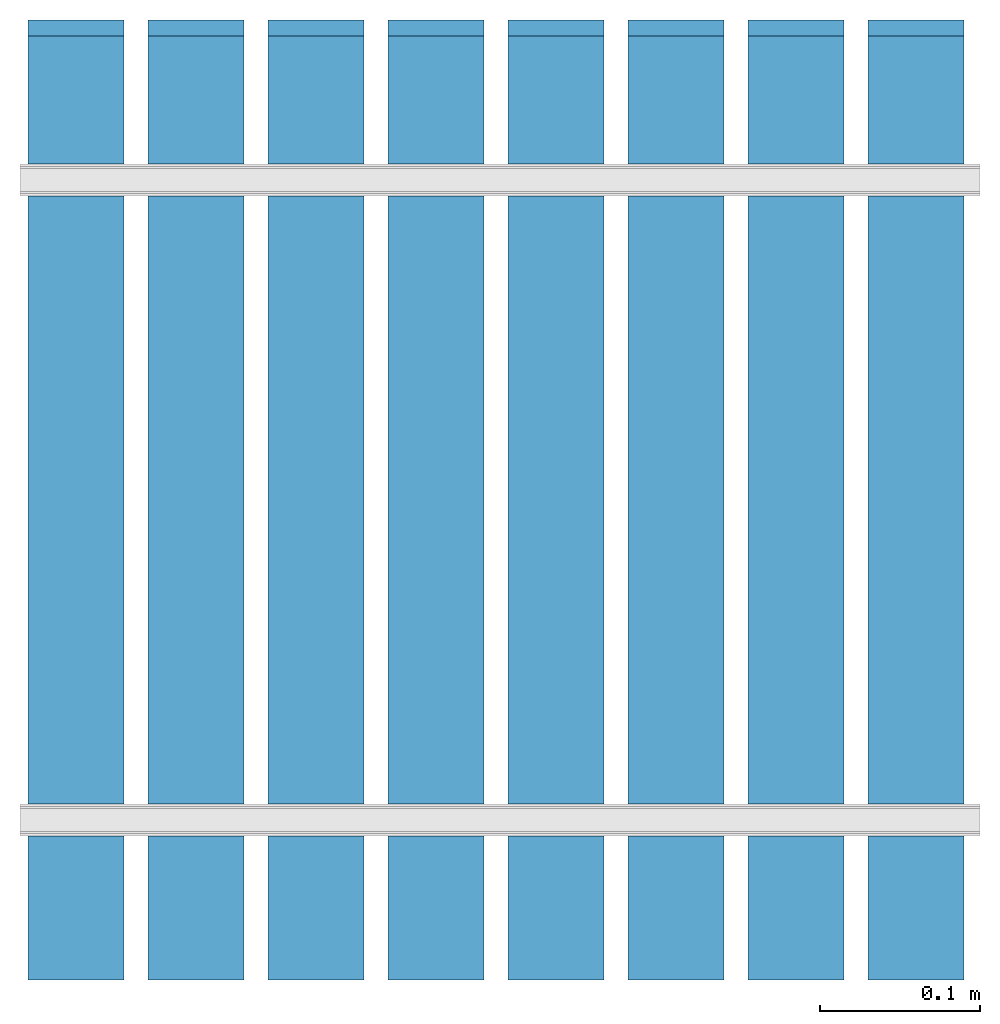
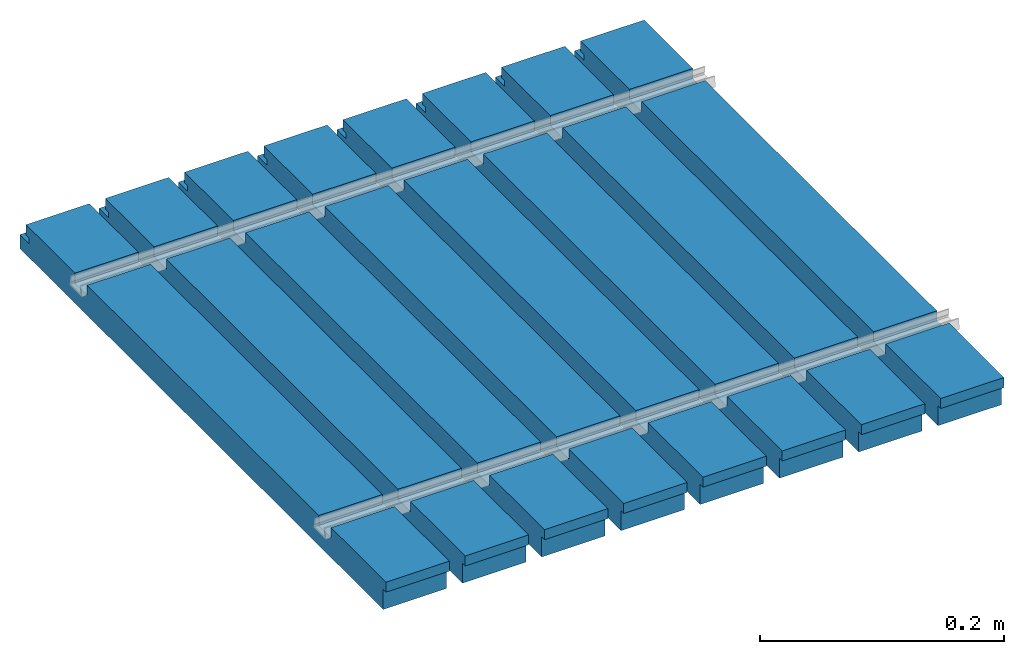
# One storey, part 2 of 2: 8 walls.
"""IFC2X3 building model written with IfcOpenShell, lengths in millimetres."""

from ifc_helpers import new_model, entity, si_unit, converted_unit, money_unit, direction, frame, origin_with_axes, place, context, subcontext, project, spatial, polyline, outline, extrude, boolean, faceted_brep, material, layer, layer_set, layer_usage, type_object, element, save


model = new_model("IFC2X3")

# Units and contexts
model_context = context("Model", 3, precision=1e-05, world=origin_with_axes(), true_north=direction((0.0, 1.0)))
body_context = subcontext(model_context, "Body", "Model", "MODEL_VIEW")
ifc_project = project(units=[si_unit("LENGTHUNIT", "METRE", prefix="MILLI"), si_unit("AREAUNIT", "SQUARE_METRE"), si_unit("VOLUMEUNIT", "CUBIC_METRE"), converted_unit("PLANEANGLEUNIT", "DEGREE", entity("IfcPlaneAngleMeasure", 0.0174532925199), si_unit("PLANEANGLEUNIT", "RADIAN"), dimensions=[0, 0, 0, 0, 0, 0, 0]), si_unit("SOLIDANGLEUNIT", "STERADIAN"), money_unit("AUD"), si_unit("TIMEUNIT", "SECOND"), si_unit("MASSUNIT", "GRAM"), si_unit("THERMODYNAMICTEMPERATUREUNIT", "DEGREE_CELSIUS"), si_unit("LUMINOUSINTENSITYUNIT", "LUMEN")], contexts=[model_context])

# Site, building, storey
site_placement = place(None, origin_with_axes())
site = spatial("IfcSite", under=ifc_project, at=site_placement, Name="Site", CompositionType="ELEMENT")
building_placement = place(site_placement, origin_with_axes())
building = spatial("IfcBuilding", under=site, at=building_placement, Name="Building", CompositionType="ELEMENT")
storey_placement = place(building_placement, origin_with_axes())
storey = spatial("IfcBuildingStorey", under=building, at=storey_placement, Name="GROUND", CompositionType="ELEMENT", Elevation=0.0)

# Walls
ifc_material = material(Name="Timber")
ifc_layer = layer(ifc_material, 60.0, ventilated="UNKNOWN")
ifc_layer_set = layer_set([ifc_layer], Name="Timber 60")
ifc_layer_usage_1 = layer_usage(ifc_layer_set, "AXIS2", "POSITIVE", 0.0)
wall_type = type_object("IfcWallType", Name="Timber 60", PredefinedType="NOTDEFINED")
wall_1_placement = place(storey_placement, frame((292.5, 0.0, -30.0), z_axis=(0.0, 0.0, 1.0), x_axis=(0.0, 1.0, 0.0)))
element("IfcWallStandardCase", 1, at=wall_1_placement, inside=storey, type_object=wall_type, material=ifc_layer_usage_1, Name="WALL-01", context=body_context, shape_type="CSG", body=[
    boolean("DIFFERENCE", boolean("DIFFERENCE", boolean("DIFFERENCE", boolean("DIFFERENCE", extrude(outline(polyline([(0.0, 0.0), (600.0, 0.0), (600.0, 60.0), (0.0, 60.0), (0.0, 0.0)])), origin_with_axes(), (0.0, 0.0, 1.0), 30.0), faceted_brep([(4.5, 0.0, 20.0), (0.0, 0.0, 20.0), (0.0, 0.0, 0.0), (4.5, 0.0, 0.0), (4.5, 60.0, 20.0), (0.0, 60.0, 20.0), (0.0, 60.0, 0.0), (4.5, 60.0, 0.0)], [[[0, 1, 2, 3]], [[1, 0, 4, 5]], [[1, 5, 6, 2]], [[7, 3, 2, 6]], [[0, 3, 7, 4]], [[4, 7, 6, 5]]])), faceted_brep([(90.0, 0.0, 20.0), (110.0, 0.0, 20.0), (110.0, 0.0, 30.0), (90.0, 0.0, 30.0), (90.0, 60.0, 20.0), (110.0, 60.0, 20.0), (110.0, 60.0, 30.0), (90.0, 60.0, 30.0)], [[[0, 1, 2, 3]], [[1, 0, 4, 5]], [[6, 2, 1, 5]], [[7, 3, 2, 6]], [[0, 3, 7, 4]], [[4, 7, 6, 5]]])), faceted_brep([(490.0, 0.0, 20.0), (510.0, 0.0, 20.0), (510.0, 0.0, 30.0), (490.0, 0.0, 30.0), (490.0, 60.0, 20.0), (510.0, 60.0, 20.0), (510.0, 60.0, 30.0), (490.0, 60.0, 30.0)], [[[0, 1, 2, 3]], [[1, 0, 4, 5]], [[6, 2, 1, 5]], [[7, 3, 2, 6]], [[0, 3, 7, 4]], [[4, 7, 6, 5]]])), faceted_brep([(585.0, 0.0, 19.5), (585.0, 0.0, 14.0), (600.0, 0.0, 14.0), (600.0, 0.0, 30.0), (590.0, 0.0, 30.0), (590.0, 0.0, 19.5), (585.0, 60.0, 19.5), (585.0, 60.0, 14.0), (600.0, 60.0, 14.0), (600.0, 60.0, 30.0), (590.0, 60.0, 30.0), (590.0, 60.0, 19.5)], [[[0, 1, 2, 3, 4, 5]], [[1, 0, 6, 7]], [[8, 2, 1, 7]], [[2, 8, 9, 3]], [[10, 4, 3, 9]], [[5, 4, 10, 11]], [[0, 5, 11, 6]], [[11, 10, 9, 8, 7, 6]]])),
])
ifc_layer_usage_2 = layer_usage(ifc_layer_set, "AXIS2", "POSITIVE", 0.0)
wall_2_placement = place(storey_placement, frame((367.5, 0.0, -30.0), z_axis=(0.0, 0.0, 1.0), x_axis=(0.0, 1.0, 0.0)))
element("IfcWallStandardCase", 2, at=wall_2_placement, inside=storey, type_object=wall_type, material=ifc_layer_usage_2, Name="WALL-01", context=body_context, shape_type="CSG", body=[
    boolean("DIFFERENCE", boolean("DIFFERENCE", boolean("DIFFERENCE", boolean("DIFFERENCE", extrude(outline(polyline([(0.0, 0.0), (600.0, 0.0), (600.0, 60.0), (0.0, 60.0), (0.0, 0.0)])), origin_with_axes(), (0.0, 0.0, 1.0), 30.0), faceted_brep([(4.5, 0.0, 20.0), (0.0, 0.0, 20.0), (0.0, 0.0, 0.0), (4.5, 0.0, 0.0), (4.5, 60.0, 20.0), (0.0, 60.0, 20.0), (0.0, 60.0, 0.0), (4.5, 60.0, 0.0)], [[[0, 1, 2, 3]], [[1, 0, 4, 5]], [[1, 5, 6, 2]], [[7, 3, 2, 6]], [[0, 3, 7, 4]], [[4, 7, 6, 5]]])), faceted_brep([(90.0, 0.0, 20.0), (110.0, 0.0, 20.0), (110.0, 0.0, 30.0), (90.0, 0.0, 30.0), (90.0, 60.0, 20.0), (110.0, 60.0, 20.0), (110.0, 60.0, 30.0), (90.0, 60.0, 30.0)], [[[0, 1, 2, 3]], [[1, 0, 4, 5]], [[6, 2, 1, 5]], [[7, 3, 2, 6]], [[0, 3, 7, 4]], [[4, 7, 6, 5]]])), faceted_brep([(490.0, 0.0, 20.0), (510.0, 0.0, 20.0), (510.0, 0.0, 30.0), (490.0, 0.0, 30.0), (490.0, 60.0, 20.0), (510.0, 60.0, 20.0), (510.0, 60.0, 30.0), (490.0, 60.0, 30.0)], [[[0, 1, 2, 3]], [[1, 0, 4, 5]], [[6, 2, 1, 5]], [[7, 3, 2, 6]], [[0, 3, 7, 4]], [[4, 7, 6, 5]]])), faceted_brep([(585.0, 0.0, 19.5), (585.0, 0.0, 14.0), (600.0, 0.0, 14.0), (600.0, 0.0, 30.0), (590.0, 0.0, 30.0), (590.0, 0.0, 19.5), (585.0, 60.0, 19.5), (585.0, 60.0, 14.0), (600.0, 60.0, 14.0), (600.0, 60.0, 30.0), (590.0, 60.0, 30.0), (590.0, 60.0, 19.5)], [[[0, 1, 2, 3, 4, 5]], [[1, 0, 6, 7]], [[8, 2, 1, 7]], [[2, 8, 9, 3]], [[10, 4, 3, 9]], [[5, 4, 10, 11]], [[0, 5, 11, 6]], [[11, 10, 9, 8, 7, 6]]])),
])
ifc_layer_usage_3 = layer_usage(ifc_layer_set, "AXIS2", "POSITIVE", 0.0)
wall_3_placement = place(storey_placement, frame((442.5, 0.0, -30.0), z_axis=(0.0, 0.0, 1.0), x_axis=(0.0, 1.0, 0.0)))
element("IfcWallStandardCase", 3, at=wall_3_placement, inside=storey, type_object=wall_type, material=ifc_layer_usage_3, Name="WALL-01", context=body_context, shape_type="CSG", body=[
    boolean("DIFFERENCE", boolean("DIFFERENCE", boolean("DIFFERENCE", boolean("DIFFERENCE", extrude(outline(polyline([(0.0, 0.0), (600.0, 0.0), (600.0, 60.0), (0.0, 60.0), (0.0, 0.0)])), origin_with_axes(), (0.0, 0.0, 1.0), 30.0), faceted_brep([(4.5, 0.0, 20.0), (0.0, 0.0, 20.0), (0.0, 0.0, 0.0), (4.5, 0.0, 0.0), (4.5, 60.0, 20.0), (0.0, 60.0, 20.0), (0.0, 60.0, 0.0), (4.5, 60.0, 0.0)], [[[0, 1, 2, 3]], [[1, 0, 4, 5]], [[1, 5, 6, 2]], [[7, 3, 2, 6]], [[0, 3, 7, 4]], [[4, 7, 6, 5]]])), faceted_brep([(90.0, 0.0, 20.0), (110.0, 0.0, 20.0), (110.0, 0.0, 30.0), (90.0, 0.0, 30.0), (90.0, 60.0, 20.0), (110.0, 60.0, 20.0), (110.0, 60.0, 30.0), (90.0, 60.0, 30.0)], [[[0, 1, 2, 3]], [[1, 0, 4, 5]], [[6, 2, 1, 5]], [[7, 3, 2, 6]], [[0, 3, 7, 4]], [[4, 7, 6, 5]]])), faceted_brep([(490.0, 0.0, 20.0), (510.0, 0.0, 20.0), (510.0, 0.0, 30.0), (490.0, 0.0, 30.0), (490.0, 60.0, 20.0), (510.0, 60.0, 20.0), (510.0, 60.0, 30.0), (490.0, 60.0, 30.0)], [[[0, 1, 2, 3]], [[1, 0, 4, 5]], [[6, 2, 1, 5]], [[7, 3, 2, 6]], [[0, 3, 7, 4]], [[4, 7, 6, 5]]])), faceted_brep([(585.0, 0.0, 19.5), (585.0, 0.0, 14.0), (600.0, 0.0, 14.0), (600.0, 0.0, 30.0), (590.0, 0.0, 30.0), (590.0, 0.0, 19.5), (585.0, 60.0, 19.5), (585.0, 60.0, 14.0), (600.0, 60.0, 14.0), (600.0, 60.0, 30.0), (590.0, 60.0, 30.0), (590.0, 60.0, 19.5)], [[[0, 1, 2, 3, 4, 5]], [[1, 0, 6, 7]], [[8, 2, 1, 7]], [[2, 8, 9, 3]], [[10, 4, 3, 9]], [[5, 4, 10, 11]], [[0, 5, 11, 6]], [[11, 10, 9, 8, 7, 6]]])),
])
ifc_layer_usage_4 = layer_usage(ifc_layer_set, "AXIS2", "POSITIVE", 0.0)
wall_4_placement = place(storey_placement, frame((217.5, 0.0, -30.0), z_axis=(0.0, 0.0, 1.0), x_axis=(0.0, 1.0, 0.0)))
element("IfcWallStandardCase", 4, at=wall_4_placement, inside=storey, type_object=wall_type, material=ifc_layer_usage_4, Name="WALL-01", context=body_context, shape_type="CSG", body=[
    boolean("DIFFERENCE", boolean("DIFFERENCE", boolean("DIFFERENCE", boolean("DIFFERENCE", extrude(outline(polyline([(0.0, 0.0), (600.0, 0.0), (600.0, 60.0), (0.0, 60.0), (0.0, 0.0)])), origin_with_axes(), (0.0, 0.0, 1.0), 30.0), faceted_brep([(4.5, 0.0, 20.0), (0.0, 0.0, 20.0), (0.0, 0.0, 0.0), (4.5, 0.0, 0.0), (4.5, 60.0, 20.0), (0.0, 60.0, 20.0), (0.0, 60.0, 0.0), (4.5, 60.0, 0.0)], [[[0, 1, 2, 3]], [[1, 0, 4, 5]], [[1, 5, 6, 2]], [[7, 3, 2, 6]], [[0, 3, 7, 4]], [[4, 7, 6, 5]]])), faceted_brep([(90.0, 0.0, 20.0), (110.0, 0.0, 20.0), (110.0, 0.0, 30.0), (90.0, 0.0, 30.0), (90.0, 60.0, 20.0), (110.0, 60.0, 20.0), (110.0, 60.0, 30.0), (90.0, 60.0, 30.0)], [[[0, 1, 2, 3]], [[1, 0, 4, 5]], [[6, 2, 1, 5]], [[7, 3, 2, 6]], [[0, 3, 7, 4]], [[4, 7, 6, 5]]])), faceted_brep([(490.0, 0.0, 20.0), (510.0, 0.0, 20.0), (510.0, 0.0, 30.0), (490.0, 0.0, 30.0), (490.0, 60.0, 20.0), (510.0, 60.0, 20.0), (510.0, 60.0, 30.0), (490.0, 60.0, 30.0)], [[[0, 1, 2, 3]], [[1, 0, 4, 5]], [[6, 2, 1, 5]], [[7, 3, 2, 6]], [[0, 3, 7, 4]], [[4, 7, 6, 5]]])), faceted_brep([(585.0, 0.0, 19.5), (585.0, 0.0, 14.0), (600.0, 0.0, 14.0), (600.0, 0.0, 30.0), (590.0, 0.0, 30.0), (590.0, 0.0, 19.5), (585.0, 60.0, 19.5), (585.0, 60.0, 14.0), (600.0, 60.0, 14.0), (600.0, 60.0, 30.0), (590.0, 60.0, 30.0), (590.0, 60.0, 19.5)], [[[0, 1, 2, 3, 4, 5]], [[1, 0, 6, 7]], [[8, 2, 1, 7]], [[2, 8, 9, 3]], [[10, 4, 3, 9]], [[5, 4, 10, 11]], [[0, 5, 11, 6]], [[11, 10, 9, 8, 7, 6]]])),
])
ifc_layer_usage_5 = layer_usage(ifc_layer_set, "AXIS2", "POSITIVE", 0.0)
wall_5_placement = place(storey_placement, frame((142.5, 0.0, -30.0), z_axis=(0.0, 0.0, 1.0), x_axis=(0.0, 1.0, 0.0)))
element("IfcWallStandardCase", 5, at=wall_5_placement, inside=storey, type_object=wall_type, material=ifc_layer_usage_5, Name="WALL-01", context=body_context, shape_type="CSG", body=[
    boolean("DIFFERENCE", boolean("DIFFERENCE", boolean("DIFFERENCE", boolean("DIFFERENCE", extrude(outline(polyline([(0.0, 0.0), (600.0, 0.0), (600.0, 60.0), (0.0, 60.0), (0.0, 0.0)])), origin_with_axes(), (0.0, 0.0, 1.0), 30.0), faceted_brep([(4.5, 0.0, 20.0), (0.0, 0.0, 20.0), (0.0, 0.0, 0.0), (4.5, 0.0, 0.0), (4.5, 60.0, 20.0), (0.0, 60.0, 20.0), (0.0, 60.0, 0.0), (4.5, 60.0, 0.0)], [[[0, 1, 2, 3]], [[1, 0, 4, 5]], [[1, 5, 6, 2]], [[7, 3, 2, 6]], [[0, 3, 7, 4]], [[4, 7, 6, 5]]])), faceted_brep([(90.0, 0.0, 20.0), (110.0, 0.0, 20.0), (110.0, 0.0, 30.0), (90.0, 0.0, 30.0), (90.0, 60.0, 20.0), (110.0, 60.0, 20.0), (110.0, 60.0, 30.0), (90.0, 60.0, 30.0)], [[[0, 1, 2, 3]], [[1, 0, 4, 5]], [[6, 2, 1, 5]], [[7, 3, 2, 6]], [[0, 3, 7, 4]], [[4, 7, 6, 5]]])), faceted_brep([(490.0, 0.0, 20.0), (510.0, 0.0, 20.0), (510.0, 0.0, 30.0), (490.0, 0.0, 30.0), (490.0, 60.0, 20.0), (510.0, 60.0, 20.0), (510.0, 60.0, 30.0), (490.0, 60.0, 30.0)], [[[0, 1, 2, 3]], [[1, 0, 4, 5]], [[6, 2, 1, 5]], [[7, 3, 2, 6]], [[0, 3, 7, 4]], [[4, 7, 6, 5]]])), faceted_brep([(585.0, 0.0, 19.5), (585.0, 0.0, 14.0), (600.0, 0.0, 14.0), (600.0, 0.0, 30.0), (590.0, 0.0, 30.0), (590.0, 0.0, 19.5), (585.0, 60.0, 19.5), (585.0, 60.0, 14.0), (600.0, 60.0, 14.0), (600.0, 60.0, 30.0), (590.0, 60.0, 30.0), (590.0, 60.0, 19.5)], [[[0, 1, 2, 3, 4, 5]], [[1, 0, 6, 7]], [[8, 2, 1, 7]], [[2, 8, 9, 3]], [[10, 4, 3, 9]], [[5, 4, 10, 11]], [[0, 5, 11, 6]], [[11, 10, 9, 8, 7, 6]]])),
])
ifc_layer_usage_6 = layer_usage(ifc_layer_set, "AXIS2", "POSITIVE", 0.0)
wall_6_placement = place(storey_placement, frame((67.5, 0.0, -30.0), z_axis=(0.0, 0.0, 1.0), x_axis=(0.0, 1.0, 0.0)))
element("IfcWallStandardCase", 6, at=wall_6_placement, inside=storey, type_object=wall_type, material=ifc_layer_usage_6, Name="WALL-01", context=body_context, shape_type="CSG", body=[
    boolean("DIFFERENCE", boolean("DIFFERENCE", boolean("DIFFERENCE", boolean("DIFFERENCE", extrude(outline(polyline([(0.0, 0.0), (600.0, 0.0), (600.0, 60.0), (0.0, 60.0), (0.0, 0.0)])), origin_with_axes(), (0.0, 0.0, 1.0), 30.0), faceted_brep([(4.5, 0.0, 20.0), (0.0, 0.0, 20.0), (0.0, 0.0, 0.0), (4.5, 0.0, 0.0), (4.5, 60.0, 20.0), (0.0, 60.0, 20.0), (0.0, 60.0, 0.0), (4.5, 60.0, 0.0)], [[[0, 1, 2, 3]], [[1, 0, 4, 5]], [[1, 5, 6, 2]], [[7, 3, 2, 6]], [[0, 3, 7, 4]], [[4, 7, 6, 5]]])), faceted_brep([(90.0, 0.0, 20.0), (110.0, 0.0, 20.0), (110.0, 0.0, 30.0), (90.0, 0.0, 30.0), (90.0, 60.0, 20.0), (110.0, 60.0, 20.0), (110.0, 60.0, 30.0), (90.0, 60.0, 30.0)], [[[0, 1, 2, 3]], [[1, 0, 4, 5]], [[6, 2, 1, 5]], [[7, 3, 2, 6]], [[0, 3, 7, 4]], [[4, 7, 6, 5]]])), faceted_brep([(490.0, 0.0, 20.0), (510.0, 0.0, 20.0), (510.0, 0.0, 30.0), (490.0, 0.0, 30.0), (490.0, 60.0, 20.0), (510.0, 60.0, 20.0), (510.0, 60.0, 30.0), (490.0, 60.0, 30.0)], [[[0, 1, 2, 3]], [[1, 0, 4, 5]], [[6, 2, 1, 5]], [[7, 3, 2, 6]], [[0, 3, 7, 4]], [[4, 7, 6, 5]]])), faceted_brep([(585.0, 0.0, 19.5), (585.0, 0.0, 14.0), (600.0, 0.0, 14.0), (600.0, 0.0, 30.0), (590.0, 0.0, 30.0), (590.0, 0.0, 19.5), (585.0, 60.0, 19.5), (585.0, 60.0, 14.0), (600.0, 60.0, 14.0), (600.0, 60.0, 30.0), (590.0, 60.0, 30.0), (590.0, 60.0, 19.5)], [[[0, 1, 2, 3, 4, 5]], [[1, 0, 6, 7]], [[8, 2, 1, 7]], [[2, 8, 9, 3]], [[10, 4, 3, 9]], [[5, 4, 10, 11]], [[0, 5, 11, 6]], [[11, 10, 9, 8, 7, 6]]])),
])
ifc_layer_usage_7 = layer_usage(ifc_layer_set, "AXIS2", "POSITIVE", 0.0)
wall_7_placement = place(storey_placement, frame((592.5, 0.0, -30.0), z_axis=(0.0, 0.0, 1.0), x_axis=(0.0, 1.0, 0.0)))
element("IfcWallStandardCase", 7, at=wall_7_placement, inside=storey, type_object=wall_type, material=ifc_layer_usage_7, Name="WALL-01", context=body_context, shape_type="CSG", body=[
    boolean("DIFFERENCE", boolean("DIFFERENCE", boolean("DIFFERENCE", boolean("DIFFERENCE", extrude(outline(polyline([(0.0, 0.0), (600.0, 0.0), (600.0, 60.0), (0.0, 60.0), (0.0, 0.0)])), origin_with_axes(), (0.0, 0.0, 1.0), 30.0), faceted_brep([(4.5, 0.0, 20.0), (0.0, 0.0, 20.0), (0.0, 0.0, 0.0), (4.5, 0.0, 0.0), (4.5, 60.0, 20.0), (0.0, 60.0, 20.0), (0.0, 60.0, 0.0), (4.5, 60.0, 0.0)], [[[0, 1, 2, 3]], [[1, 0, 4, 5]], [[1, 5, 6, 2]], [[7, 3, 2, 6]], [[0, 3, 7, 4]], [[4, 7, 6, 5]]])), faceted_brep([(90.0, 0.0, 20.0), (110.0, 0.0, 20.0), (110.0, 0.0, 30.0), (90.0, 0.0, 30.0), (90.0, 60.0, 20.0), (110.0, 60.0, 20.0), (110.0, 60.0, 30.0), (90.0, 60.0, 30.0)], [[[0, 1, 2, 3]], [[1, 0, 4, 5]], [[6, 2, 1, 5]], [[7, 3, 2, 6]], [[0, 3, 7, 4]], [[4, 7, 6, 5]]])), faceted_brep([(490.0, 0.0, 20.0), (510.0, 0.0, 20.0), (510.0, 0.0, 30.0), (490.0, 0.0, 30.0), (490.0, 60.0, 20.0), (510.0, 60.0, 20.0), (510.0, 60.0, 30.0), (490.0, 60.0, 30.0)], [[[0, 1, 2, 3]], [[1, 0, 4, 5]], [[6, 2, 1, 5]], [[7, 3, 2, 6]], [[0, 3, 7, 4]], [[4, 7, 6, 5]]])), faceted_brep([(585.0, 0.0, 19.5), (585.0, 0.0, 14.0), (600.0, 0.0, 14.0), (600.0, 0.0, 30.0), (590.0, 0.0, 30.0), (590.0, 0.0, 19.5), (585.0, 60.0, 19.5), (585.0, 60.0, 14.0), (600.0, 60.0, 14.0), (600.0, 60.0, 30.0), (590.0, 60.0, 30.0), (590.0, 60.0, 19.5)], [[[0, 1, 2, 3, 4, 5]], [[1, 0, 6, 7]], [[8, 2, 1, 7]], [[2, 8, 9, 3]], [[10, 4, 3, 9]], [[5, 4, 10, 11]], [[0, 5, 11, 6]], [[11, 10, 9, 8, 7, 6]]])),
])
ifc_layer_usage_8 = layer_usage(ifc_layer_set, "AXIS2", "POSITIVE", 0.0)
wall_8_placement = place(storey_placement, frame((517.5, 0.0, -30.0), z_axis=(0.0, 0.0, 1.0), x_axis=(0.0, 1.0, 0.0)))
element("IfcWallStandardCase", 8, at=wall_8_placement, inside=storey, type_object=wall_type, material=ifc_layer_usage_8, Name="WALL-01", context=body_context, shape_type="CSG", body=[
    boolean("DIFFERENCE", boolean("DIFFERENCE", boolean("DIFFERENCE", boolean("DIFFERENCE", extrude(outline(polyline([(0.0, 0.0), (600.0, 0.0), (600.0, 60.0), (0.0, 60.0), (0.0, 0.0)])), origin_with_axes(), (0.0, 0.0, 1.0), 30.0), faceted_brep([(4.5, 0.0, 20.0), (0.0, 0.0, 20.0), (0.0, 0.0, 0.0), (4.5, 0.0, 0.0), (4.5, 60.0, 20.0), (0.0, 60.0, 20.0), (0.0, 60.0, 0.0), (4.5, 60.0, 0.0)], [[[0, 1, 2, 3]], [[1, 0, 4, 5]], [[1, 5, 6, 2]], [[7, 3, 2, 6]], [[0, 3, 7, 4]], [[4, 7, 6, 5]]])), faceted_brep([(90.0, 0.0, 20.0), (110.0, 0.0, 20.0), (110.0, 0.0, 30.0), (90.0, 0.0, 30.0), (90.0, 60.0, 20.0), (110.0, 60.0, 20.0), (110.0, 60.0, 30.0), (90.0, 60.0, 30.0)], [[[0, 1, 2, 3]], [[1, 0, 4, 5]], [[6, 2, 1, 5]], [[7, 3, 2, 6]], [[0, 3, 7, 4]], [[4, 7, 6, 5]]])), faceted_brep([(490.0, 0.0, 20.0), (510.0, 0.0, 20.0), (510.0, 0.0, 30.0), (490.0, 0.0, 30.0), (490.0, 60.0, 20.0), (510.0, 60.0, 20.0), (510.0, 60.0, 30.0), (490.0, 60.0, 30.0)], [[[0, 1, 2, 3]], [[1, 0, 4, 5]], [[6, 2, 1, 5]], [[7, 3, 2, 6]], [[0, 3, 7, 4]], [[4, 7, 6, 5]]])), faceted_brep([(585.0, 0.0, 19.5), (585.0, 0.0, 14.0), (600.0, 0.0, 14.0), (600.0, 0.0, 30.0), (590.0, 0.0, 30.0), (590.0, 0.0, 19.5), (585.0, 60.0, 19.5), (585.0, 60.0, 14.0), (600.0, 60.0, 14.0), (600.0, 60.0, 30.0), (590.0, 60.0, 30.0), (590.0, 60.0, 19.5)], [[[0, 1, 2, 3, 4, 5]], [[1, 0, 6, 7]], [[8, 2, 1, 7]], [[2, 8, 9, 3]], [[10, 4, 3, 9]], [[5, 4, 10, 11]], [[0, 5, 11, 6]], [[11, 10, 9, 8, 7, 6]]])),
])

save(model, "model.ifc")
